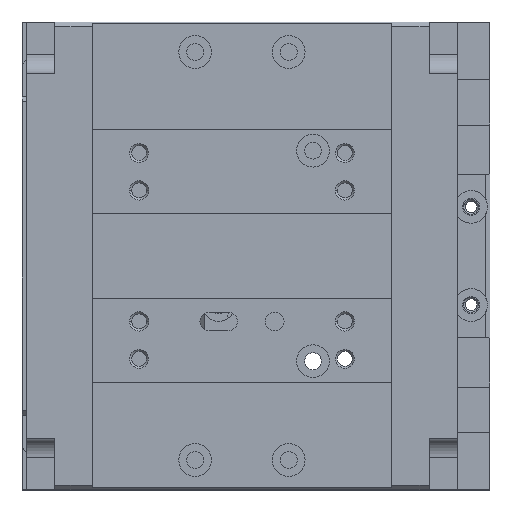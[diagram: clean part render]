
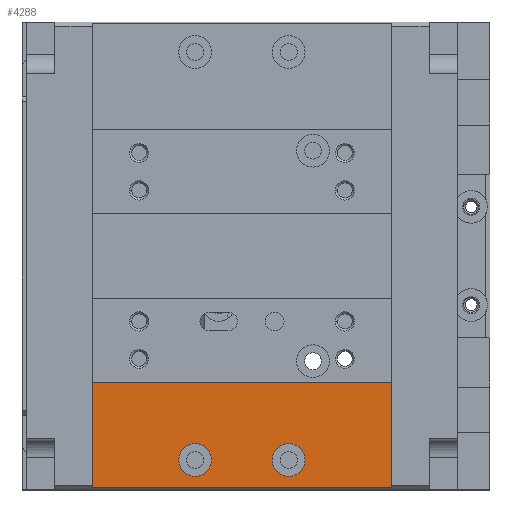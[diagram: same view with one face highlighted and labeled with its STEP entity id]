
A CAD part, top view. The second image highlights one B-rep face of the part: STEP entity #4288.
In plain terms, the highlighted planar face has unit normal (0, 0, 1) as drawn and (0, 0, -1) by its records, which use the part's own axes.
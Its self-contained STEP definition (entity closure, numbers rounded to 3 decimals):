
#64 = DIRECTION ( 'NONE',  ( 0., -1., 0. ) ) ;
#87 = DIRECTION ( 'NONE',  ( 0., -1., 0. ) ) ;
#1067 = CIRCLE ( 'NONE', #11654, 1.75 ) ;
#1177 = VERTEX_POINT ( 'NONE', #19920 ) ;
#1274 = EDGE_CURVE ( 'NONE', #9325, #14248, #1067, .T. ) ;
#1396 = ORIENTED_EDGE ( 'NONE', *, *, #13561, .F. ) ;
#1479 = CIRCLE ( 'NONE', #4215, 1.75 ) ;
#2016 = CARTESIAN_POINT ( 'NONE',  ( 0., 38.5, 0.3 ) ) ;
#3416 = EDGE_LOOP ( 'NONE', ( #19307, #1396 ) ) ;
#3447 = VERTEX_POINT ( 'NONE', #8806 ) ;
#3480 = VERTEX_POINT ( 'NONE', #16499 ) ;
#3687 = VERTEX_POINT ( 'NONE', #7686 ) ;
#4006 = EDGE_LOOP ( 'NONE', ( #13998, #13293, #18422, #4144 ) ) ;
#4144 = ORIENTED_EDGE ( 'NONE', *, *, #20763, .F. ) ;
#4215 = AXIS2_PLACEMENT_3D ( 'NONE', #21233, #9772, #23147 ) ;
#4288 = ADVANCED_FACE ( 'NONE', ( #4860, #13881, #8755 ), #21048, .F. ) ;
#4860 = FACE_BOUND ( 'NONE', #3416, .T. ) ;
#5740 = DIRECTION ( 'NONE',  ( 0., -1., 0. ) ) ;
#6622 = CARTESIAN_POINT ( 'NONE',  ( 21., 46.8, 0.3 ) ) ;
#7015 = EDGE_CURVE ( 'NONE', #14248, #9325, #1479, .T. ) ;
#7360 = VECTOR ( 'NONE', #17835, 1000. ) ;
#7686 = CARTESIAN_POINT ( 'NONE',  ( 22.75, 46.8, 0.3 ) ) ;
#8542 = DIRECTION ( 'NONE',  ( 0., -1., 0. ) ) ;
#8581 = EDGE_CURVE ( 'NONE', #3447, #1177, #21424, .T. ) ;
#8755 = FACE_BOUND ( 'NONE', #15295, .T. ) ;
#8806 = CARTESIAN_POINT ( 'NONE',  ( 32., 49.8, 0.3 ) ) ;
#9325 = VERTEX_POINT ( 'NONE', #19986 ) ;
#9772 = DIRECTION ( 'NONE',  ( 0., 0., -1. ) ) ;
#10461 = DIRECTION ( 'NONE',  ( 0., 0., -1. ) ) ;
#11423 = CARTESIAN_POINT ( 'NONE',  ( 21., 46.8, 0.3 ) ) ;
#11515 = DIRECTION ( 'NONE',  ( 0., 0., 1. ) ) ;
#11654 = AXIS2_PLACEMENT_3D ( 'NONE', #15757, #10461, #64 ) ;
#11883 = EDGE_CURVE ( 'NONE', #3480, #3687, #23847, .T. ) ;
#12795 = CARTESIAN_POINT ( 'NONE',  ( 32., 49.8, 0.3 ) ) ;
#12852 = AXIS2_PLACEMENT_3D ( 'NONE', #17262, #11515, #87 ) ;
#12855 = AXIS2_PLACEMENT_3D ( 'NONE', #6622, #20005, #8542 ) ;
#12881 = DIRECTION ( 'NONE',  ( 1., 0., 0. ) ) ;
#13293 = ORIENTED_EDGE ( 'NONE', *, *, #8581, .T. ) ;
#13370 = DIRECTION ( 'NONE',  ( 0., -1., 0. ) ) ;
#13517 = DIRECTION ( 'NONE',  ( 1., 0., 0. ) ) ;
#13561 = EDGE_CURVE ( 'NONE', #3687, #3480, #20467, .T. ) ;
#13876 = LINE ( 'NONE', #12795, #18331 ) ;
#13881 = FACE_OUTER_BOUND ( 'NONE', #4006, .T. ) ;
#13998 = ORIENTED_EDGE ( 'NONE', *, *, #14323, .T. ) ;
#14248 = VERTEX_POINT ( 'NONE', #24071 ) ;
#14323 = EDGE_CURVE ( 'NONE', #14623, #3447, #13876, .T. ) ;
#14623 = VERTEX_POINT ( 'NONE', #21443 ) ;
#15295 = EDGE_LOOP ( 'NONE', ( #17908, #18894 ) ) ;
#15757 = CARTESIAN_POINT ( 'NONE',  ( 11., 46.8, 0.3 ) ) ;
#16499 = CARTESIAN_POINT ( 'NONE',  ( 19.25, 46.8, 0.3 ) ) ;
#16972 = AXIS2_PLACEMENT_3D ( 'NONE', #11423, #24812, #13370 ) ;
#17197 = CARTESIAN_POINT ( 'NONE',  ( 0., 50., 0.3 ) ) ;
#17262 = CARTESIAN_POINT ( 'NONE',  ( 0., 50., 0.3 ) ) ;
#17835 = DIRECTION ( 'NONE',  ( 0., -1., 0. ) ) ;
#17908 = ORIENTED_EDGE ( 'NONE', *, *, #1274, .F. ) ;
#18294 = VERTEX_POINT ( 'NONE', #23506 ) ;
#18303 = LINE ( 'NONE', #2016, #22771 ) ;
#18331 = VECTOR ( 'NONE', #12881, 1000. ) ;
#18422 = ORIENTED_EDGE ( 'NONE', *, *, #21749, .F. ) ;
#18894 = ORIENTED_EDGE ( 'NONE', *, *, #7015, .F. ) ;
#19307 = ORIENTED_EDGE ( 'NONE', *, *, #11883, .F. ) ;
#19611 = CARTESIAN_POINT ( 'NONE',  ( 32., 50., 0.3 ) ) ;
#19920 = CARTESIAN_POINT ( 'NONE',  ( 32., 38.5, 0.3 ) ) ;
#19986 = CARTESIAN_POINT ( 'NONE',  ( 9.25, 46.8, 0.3 ) ) ;
#20005 = DIRECTION ( 'NONE',  ( 0., 0., -1. ) ) ;
#20467 = CIRCLE ( 'NONE', #12855, 1.75 ) ;
#20763 = EDGE_CURVE ( 'NONE', #14623, #18294, #21959, .T. ) ;
#21048 = PLANE ( 'NONE',  #12852 ) ;
#21233 = CARTESIAN_POINT ( 'NONE',  ( 11., 46.8, 0.3 ) ) ;
#21330 = VECTOR ( 'NONE', #5740, 1000. ) ;
#21424 = LINE ( 'NONE', #19611, #7360 ) ;
#21443 = CARTESIAN_POINT ( 'NONE',  ( 0., 49.8, 0.3 ) ) ;
#21749 = EDGE_CURVE ( 'NONE', #18294, #1177, #18303, .T. ) ;
#21959 = LINE ( 'NONE', #17197, #21330 ) ;
#22771 = VECTOR ( 'NONE', #13517, 1000. ) ;
#23147 = DIRECTION ( 'NONE',  ( 0., -1., 0. ) ) ;
#23506 = CARTESIAN_POINT ( 'NONE',  ( 0., 38.5, 0.3 ) ) ;
#23847 = CIRCLE ( 'NONE', #16972, 1.75 ) ;
#24071 = CARTESIAN_POINT ( 'NONE',  ( 12.75, 46.8, 0.3 ) ) ;
#24812 = DIRECTION ( 'NONE',  ( 0., 0., -1. ) ) ;
